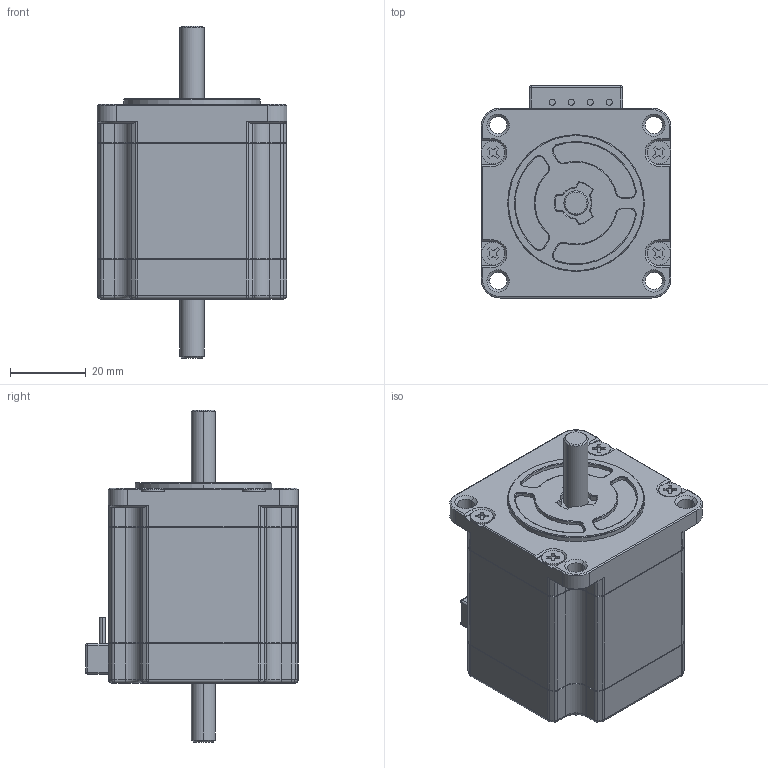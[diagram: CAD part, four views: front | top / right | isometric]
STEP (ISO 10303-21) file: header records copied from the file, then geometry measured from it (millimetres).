
FILE_DESCRIPTION (( 'STEP AP203' ), '1' );
FILE_NAME ('103H6703-5010.STEP', '2012-06-26T10:33:01', ( 'sanyodenki-admin' ), ( '' ), 'SwSTEP 2.0', 'SolidWorks 2011', '' );
FILE_SCHEMA (( 'CONFIG_CONTROL_DESIGN' ));
Length unit declared in the file: millimetre
Products named in the file (1): 103H6703-5010
Bounding box: 50 x 56 x 87.4 mm (x, y, z)
Volume: 117775.9 mm3; surface area: 16378.8 mm2
Topology: 1 solids, 1 shells, 605 faces, 1491 edges, 905 vertices
Faces by surface type: plane 219, cylinder 205, cone 113, torus 36, sphere 20, bspline 12
Entity records: 18162 total; most frequent: CARTESIAN_POINT 3629, DIRECTION 3180, ORIENTED_EDGE 2958, EDGE_CURVE 1479, AXIS2_PLACEMENT_3D 1195, VERTEX_POINT 905, LINE 790, VECTOR 790
